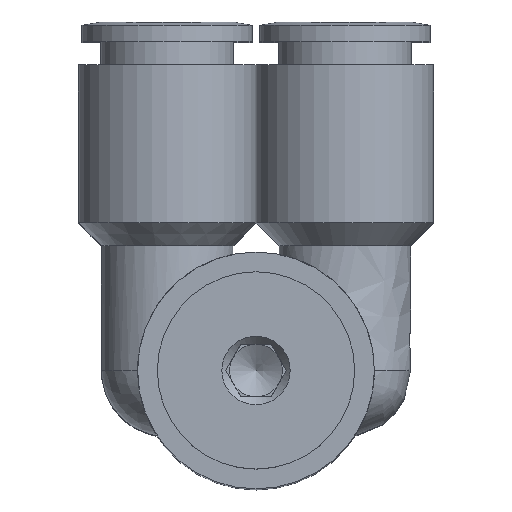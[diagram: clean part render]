
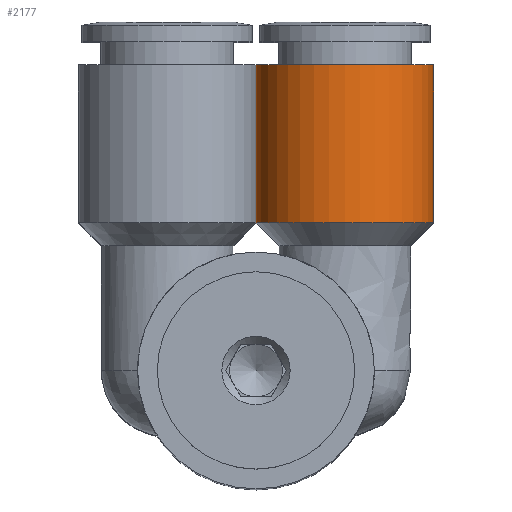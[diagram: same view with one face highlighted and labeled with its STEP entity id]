
A CAD part, top view. The second image highlights one B-rep face of the part: STEP entity #2177.
In plain terms, the highlighted free-form (B-spline) face has degree [1, 2] with [2, 9] control points.
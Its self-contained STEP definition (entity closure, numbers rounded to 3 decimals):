
#2112=CARTESIAN_POINT('',(0.,11.25,34.0));
#2113=VERTEX_POINT('',#2112);
#2114=CARTESIAN_POINT('',(6.75,11.25,34.0));
#2115=DIRECTION('',(0.0,-1.0,0.0));
#2116=DIRECTION('',(1.0,0.0,0.0));
#2117=AXIS2_PLACEMENT_3D('',#2114,#2115,#2116);
#2118=CIRCLE('',#2117,6.75);
#2119=EDGE_CURVE('',#2113,#2113,#2118,.T.);
#2127=CARTESIAN_POINT('',(0.,11.25,34.0));
#2128=CARTESIAN_POINT('',(0.,23.25,34.0));
#2129=CARTESIAN_POINT('',(0.,11.25,27.25));
#2130=CARTESIAN_POINT('',(0.,23.25,27.25));
#2131=CARTESIAN_POINT('',(6.75,11.25,27.25));
#2132=CARTESIAN_POINT('',(6.75,23.25,27.25));
#2133=CARTESIAN_POINT('',(13.5,11.25,27.25));
#2134=CARTESIAN_POINT('',(13.5,23.25,27.25));
#2135=CARTESIAN_POINT('',(13.5,11.25,34.0));
#2136=CARTESIAN_POINT('',(13.5,23.25,34.0));
#2137=CARTESIAN_POINT('',(13.5,11.25,40.75));
#2138=CARTESIAN_POINT('',(13.5,23.25,40.75));
#2139=CARTESIAN_POINT('',(6.75,11.25,40.75));
#2140=CARTESIAN_POINT('',(6.75,23.25,40.75));
#2141=CARTESIAN_POINT('',(0.,11.25,40.75));
#2142=CARTESIAN_POINT('',(0.,23.25,40.75));
#2143=CARTESIAN_POINT('',(0.,11.25,34.0));
#2144=CARTESIAN_POINT('',(0.,23.25,34.0));
#2152=(BOUNDED_SURFACE()B_SPLINE_SURFACE(1,2,((#2127,#2129,#2131,#2133,#2135,#2137,#2139,#2141,#2143),(#2128,#2130,#2132,#2134,#2136,#2138,#2140,#2142,#2144)),.UNSPECIFIED.,.F.,.T.,.U.)B_SPLINE_SURFACE_WITH_KNOTS((2,2),(3,2,2,2,3),(-0.889,0.889),(0.0,10.603,21.206,31.809,42.412),.UNSPECIFIED.)GEOMETRIC_REPRESENTATION_ITEM()RATIONAL_B_SPLINE_SURFACE(((1.0,0.707,1.0,0.707,1.0,0.707,1.0,0.707,1.0),(1.0,0.707,1.0,0.707,1.0,0.707,1.0,0.707,1.0)))REPRESENTATION_ITEM('')SURFACE());
#2153=CARTESIAN_POINT('',(0.0,23.25,34.0));
#2154=VERTEX_POINT('',#2153);
#2155=CARTESIAN_POINT('',(6.75,23.25,34.0));
#2156=DIRECTION('',(0.0,-1.0,0.0));
#2157=DIRECTION('',(1.0,0.0,0.0));
#2158=AXIS2_PLACEMENT_3D('',#2155,#2156,#2157);
#2159=CIRCLE('',#2158,6.75);
#2160=EDGE_CURVE('',#2154,#2154,#2159,.T.);
#2161=ORIENTED_EDGE('',*,*,#2160,.T.);
#2162=CARTESIAN_POINT('',(0.0,23.25,34.0));
#2163=DIRECTION('',(0.0,-1.0,0.0));
#2164=VECTOR('',#2163,12.);
#2165=LINE('',#2162,#2164);
#2166=EDGE_CURVE('',#2154,#2113,#2165,.T.);
#2167=ORIENTED_EDGE('',*,*,#2166,.T.);
#2168=ORIENTED_EDGE('',*,*,#2119,.F.);
#2169=CARTESIAN_POINT('',(0.0,23.25,34.0));
#2170=DIRECTION('',(0.0,-1.0,0.0));
#2171=VECTOR('',#2170,12.);
#2172=LINE('',#2169,#2171);
#2173=EDGE_CURVE('',#2154,#2113,#2172,.T.);
#2174=ORIENTED_EDGE('',*,*,#2173,.F.);
#2175=EDGE_LOOP('',(#2161,#2167,#2168,#2174));
#2176=FACE_OUTER_BOUND('',#2175,.T.);
#2177=ADVANCED_FACE('',(#2176),#2152,.T.);
